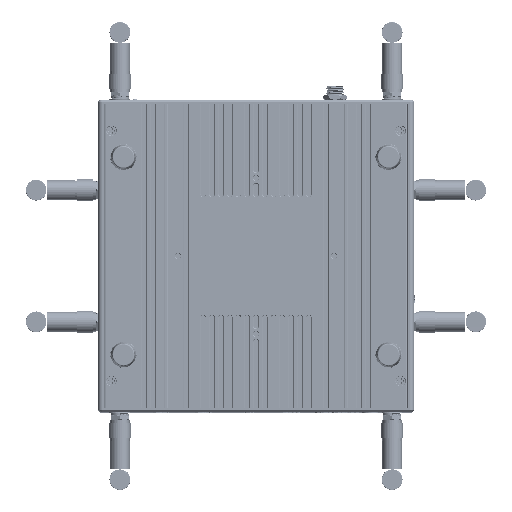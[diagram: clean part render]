
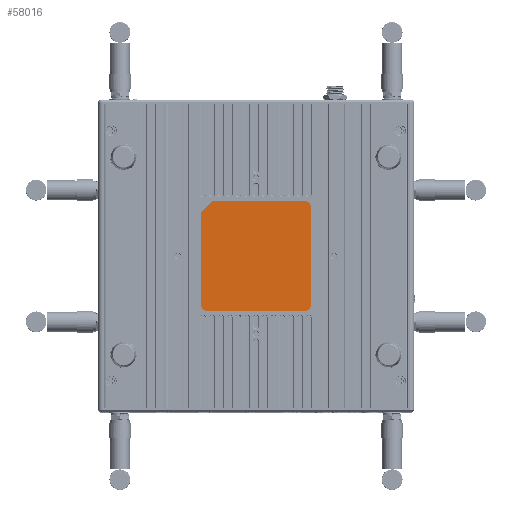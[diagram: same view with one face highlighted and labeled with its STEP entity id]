
A CAD part, top view. The second image highlights one B-rep face of the part: STEP entity #58016.
In plain terms, the highlighted planar face has unit normal (0, 0, 1).
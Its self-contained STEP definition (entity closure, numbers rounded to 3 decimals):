
#49029=CARTESIAN_POINT('',(22.5,-22.5,4.2));
#49030=DIRECTION('',(0.,0.,1.));
#49031=DIRECTION('',(0.,-1.,0.));
#49032=AXIS2_PLACEMENT_3D('',#49029,#49030,#49031);
#49037=DIRECTION('',(1.,0.,0.));
#49038=VECTOR('',#49037,45.);
#49039=CARTESIAN_POINT('',(-22.5,-25.,4.2));
#49040=LINE('',#49039,#49038);
#49044=CARTESIAN_POINT('',(-22.5,-22.5,4.2));
#49045=DIRECTION('',(0.,0.,1.));
#49046=DIRECTION('',(-1.,0.,0.));
#49047=AXIS2_PLACEMENT_3D('',#49044,#49045,#49046);
#49052=DIRECTION('',(0.,-1.,0.));
#49053=VECTOR('',#49052,41.464);
#49054=CARTESIAN_POINT('',(-25.,18.964,4.2));
#49055=LINE('',#49054,#49053);
#49059=CARTESIAN_POINT('',(-22.5,18.964,4.2));
#49060=DIRECTION('',(0.,0.,1.));
#49061=DIRECTION('',(-0.707,0.707,0.));
#49062=AXIS2_PLACEMENT_3D('',#49059,#49060,#49061);
#49067=DIRECTION('',(-0.707,-0.707,0.));
#49068=VECTOR('',#49067,5.);
#49069=CARTESIAN_POINT('',(-20.732,24.268,
4.2));
#49070=LINE('',#49069,#49068);
#49074=CARTESIAN_POINT('',(-18.964,22.5,4.2));
#49075=DIRECTION('',(0.,0.,1.));
#49076=DIRECTION('',(0.,1.,0.));
#49077=AXIS2_PLACEMENT_3D('',#49074,#49075,#49076);
#49082=DIRECTION('',(-1.,0.,0.));
#49083=VECTOR('',#49082,41.464);
#49084=CARTESIAN_POINT('',(22.5,25.,4.2));
#49085=LINE('',#49084,#49083);
#49089=CARTESIAN_POINT('',(22.5,22.5,4.2));
#49090=DIRECTION('',(0.,0.,1.));
#49091=DIRECTION('',(1.,0.,0.));
#49092=AXIS2_PLACEMENT_3D('',#49089,#49090,#49091);
#49097=DIRECTION('',(0.,1.,0.));
#49098=VECTOR('',#49097,45.);
#49099=CARTESIAN_POINT('',(25.,-22.5,4.2));
#49100=LINE('',#49099,#49098);
#53176=CARTESIAN_POINT('',(22.5,-25.,4.2));
#53177=CARTESIAN_POINT('',(25.,-22.5,4.2));
#53178=VERTEX_POINT('',#53176);
#53179=VERTEX_POINT('',#53177);
#53184=CARTESIAN_POINT('',(-25.,-22.5,4.2));
#53185=CARTESIAN_POINT('',(-22.5,-25.,4.2));
#53186=VERTEX_POINT('',#53184);
#53187=VERTEX_POINT('',#53185);
#53192=CARTESIAN_POINT('',(-24.268,20.732,
4.2));
#53193=CARTESIAN_POINT('',(-25.,18.964,4.2));
#53194=VERTEX_POINT('',#53192);
#53195=VERTEX_POINT('',#53193);
#53200=CARTESIAN_POINT('',(-18.964,25.,4.2));
#53201=CARTESIAN_POINT('',(-20.732,24.268,
4.2));
#53202=VERTEX_POINT('',#53200);
#53203=VERTEX_POINT('',#53201);
#53208=CARTESIAN_POINT('',(25.,22.5,4.2));
#53209=CARTESIAN_POINT('',(22.5,25.,4.2));
#53210=VERTEX_POINT('',#53208);
#53211=VERTEX_POINT('',#53209);
#57991=CARTESIAN_POINT('',(0.,-69.15,4.2));
#57992=DIRECTION('',(0.,0.,1.));
#57993=DIRECTION('',(-1.,0.,0.));
#57994=AXIS2_PLACEMENT_3D('',#57991,#57992,#57993);
#57995=PLANE('',#57994);
#57997=ORIENTED_EDGE('',*,*,#57996,.F.);
#57999=ORIENTED_EDGE('',*,*,#57998,.F.);
#58000=ORIENTED_EDGE('',*,*,#57982,.F.);
#58001=ORIENTED_EDGE('',*,*,#57972,.F.);
#58003=ORIENTED_EDGE('',*,*,#58002,.F.);
#58005=ORIENTED_EDGE('',*,*,#58004,.F.);
#58007=ORIENTED_EDGE('',*,*,#58006,.F.);
#58009=ORIENTED_EDGE('',*,*,#58008,.F.);
#58011=ORIENTED_EDGE('',*,*,#58010,.F.);
#58013=ORIENTED_EDGE('',*,*,#58012,.F.);
#58014=EDGE_LOOP('',(#57997,#57999,#58000,#58001,#58003,#58005,#58007,#58009,
#58011,#58013));
#58015=FACE_OUTER_BOUND('',#58014,.F.);
#49033=CIRCLE('',#49032,2.5);
#49048=CIRCLE('',#49047,2.5);
#49063=CIRCLE('',#49062,2.5);
#49078=CIRCLE('',#49077,2.5);
#49093=CIRCLE('',#49092,2.5);
#57972=EDGE_CURVE('',#53195,#53186,#49055,.T.);
#57982=EDGE_CURVE('',#53186,#53187,#49048,.T.);
#57996=EDGE_CURVE('',#53178,#53179,#49033,.T.);
#57998=EDGE_CURVE('',#53187,#53178,#49040,.T.);
#58002=EDGE_CURVE('',#53194,#53195,#49063,.T.);
#58004=EDGE_CURVE('',#53203,#53194,#49070,.T.);
#58006=EDGE_CURVE('',#53202,#53203,#49078,.T.);
#58008=EDGE_CURVE('',#53211,#53202,#49085,.T.);
#58010=EDGE_CURVE('',#53210,#53211,#49093,.T.);
#58012=EDGE_CURVE('',#53179,#53210,#49100,.T.);
#58016=ADVANCED_FACE('',(#58015),#57995,.T.);
